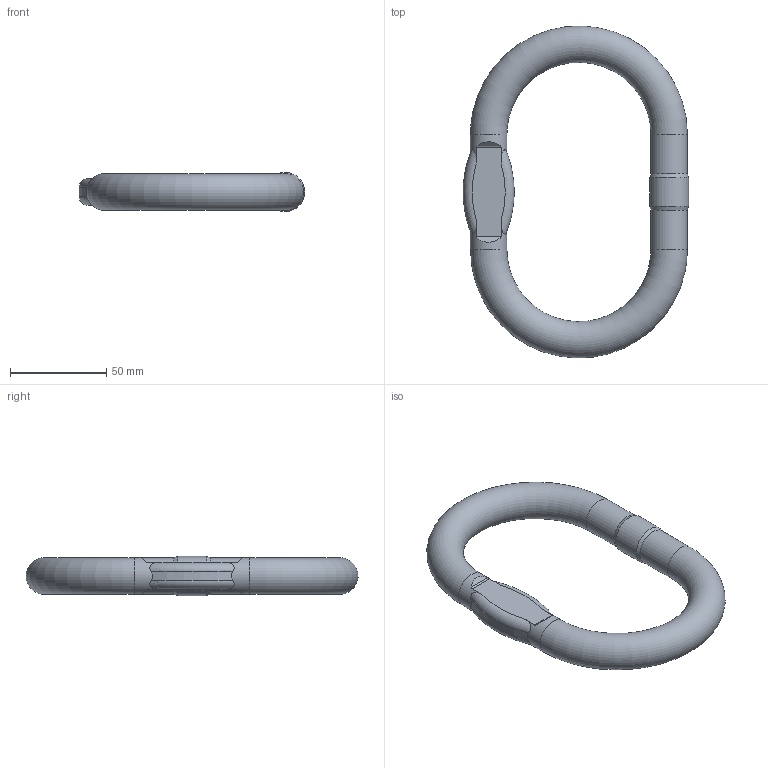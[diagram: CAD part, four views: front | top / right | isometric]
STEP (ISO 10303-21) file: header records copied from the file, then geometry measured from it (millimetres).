
FILE_DESCRIPTION(/* description */ (''),/* implementation_level */ '2;1');
FILE_NAME(/* name */ 'AWP_18.stp',/* time_stamp */ '2018-02-23T10:28:12+01:00',/* author */ (''),/* organization */ (''),/* preprocessor_version */ 'ST-DEVELOPER v16',/* originating_system */ 'SIEMENS PLM Software NX 11.0',/* authorisation */ '');
FILE_SCHEMA (('AUTOMOTIVE_DESIGN { 1 0 10303 214 3 1 1 1 }'));
Length unit declared in the file: millimetre
Products named in the file (1): kch1114C08Dlj8o
Bounding box: 117.47 x 172.89 x 20.43 mm (x, y, z)
Volume: 119607.4 mm3; surface area: 25367 mm2
Topology: 1 solids, 1 shells, 147 faces, 397 edges, 264 vertices
Faces by surface type: plane 73, extrusion 50, cylinder 16, torus 6, cone 2
Full cylindrical faces by diameter (mm): 19 x4, 20.425 x1
Entity records: 5162 total; most frequent: CARTESIAN_POINT 1874, ORIENTED_EDGE 768, DIRECTION 452, EDGE_CURVE 384, B_SPLINE_CURVE_WITH_KNOTS 262, VERTEX_POINT 260, VECTOR 188, EDGE_LOOP 170
